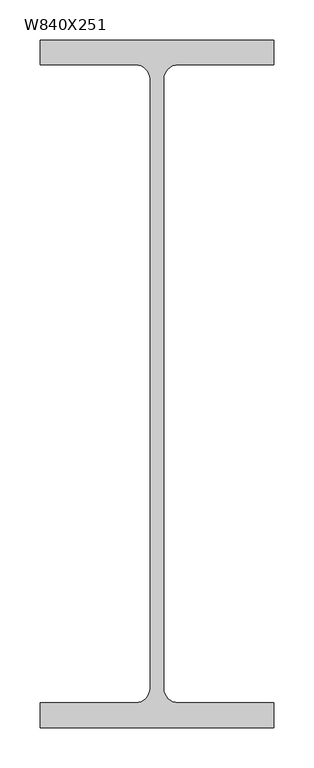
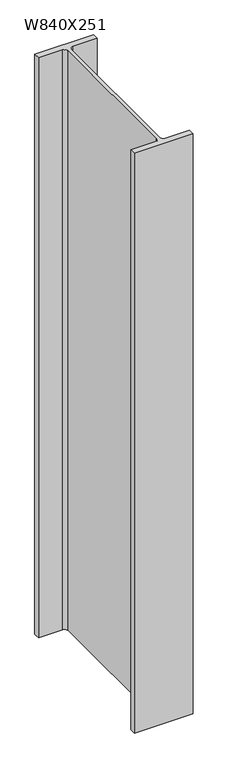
"""IFC4 building model written with IfcOpenShell, lengths in millimetres: column geometry, M_W Shapes-Column : W840X251."""

from ifc_helpers import new_model, si_unit, point, frame_2d, origin, origin_with_axes, place, context, project, spatial, polyline, circle_curve, trimmed, segment, composite_curve, outline, extrude, source, transform, mapped, element, save


def w840x251_55315ef0(model_context):
    return source(origin(), model_context, "Body", "SweptSolid", [
        extrude(outline(composite_curve([segment(polyline([(146.0, 429.5), (146.0, 398.5), (26.3, 398.5)]), True, "CONTINUOUS"), segment(trimmed(circle_curve(frame_2d((26.3, 380.7)), 17.8), [point((26.3, 398.5))], [point((8.5, 380.7))], True, "CARTESIAN"), True, "CONTINUOUS"), segment(polyline([(8.5, 380.7), (8.5, -380.7)]), True, "CONTINUOUS"), segment(trimmed(circle_curve(frame_2d((26.3, -380.7)), 17.8), [point((8.5, -380.7))], [point((26.3, -398.5))], True, "CARTESIAN"), True, "CONTINUOUS"), segment(polyline([(26.3, -398.5), (146.0, -398.5), (146.0, -429.5), (-146.0, -429.5), (-146.0, -398.5), (-26.3, -398.5)]), True, "CONTINUOUS"), segment(trimmed(circle_curve(frame_2d((-26.3, -380.7)), 17.8), [point((-26.3, -398.5))], [point((-8.5, -380.7))], True, "CARTESIAN"), True, "CONTINUOUS"), segment(polyline([(-8.5, -380.7), (-8.5, 380.7)]), True, "CONTINUOUS"), segment(trimmed(circle_curve(frame_2d((-26.3, 380.7)), 17.8), [point((-8.5, 380.7))], [point((-26.3, 398.5))], True, "CARTESIAN"), True, "CONTINUOUS"), segment(polyline([(-26.3, 398.5), (-146.0, 398.5), (-146.0, 429.5), (146.0, 429.5)]), True, "CONTINUOUS")], self_intersect=False)), origin_with_axes(), (0.0, 0.0, 1.0), 3048.0),
    ])


if __name__ == "__main__":
    model = new_model("IFC4")
    model_context = context("Model", 3, world=origin())
    ifc_project = project(units=[si_unit("LENGTHUNIT", "METRE", prefix="MILLI")], contexts=[model_context])
    site = spatial("IfcSite", under=ifc_project)
    building = spatial("IfcBuilding", under=site)
    placement = place(None, origin())
    w840x251_shape = w840x251_55315ef0(model_context)
    element("IfcColumn", 1, ObjectType="M_W Shapes-Column : W840X251", at=placement, inside=building, context=model_context, shape_type="MappedRepresentation", body=[
        mapped(w840x251_shape, transform((0.0, 0.0, 0.0), x_axis=(1.0, 0.0, 0.0), y_axis=(0.0, 1.0, 0.0), z_axis=(0.0, 0.0, 1.0))),
    ])
    save(model, "model.ifc")
